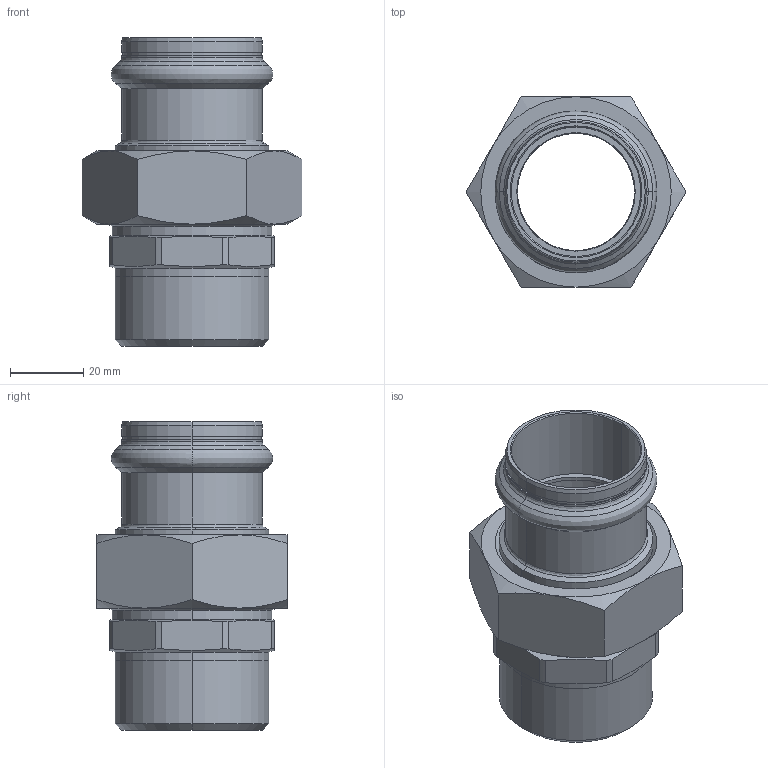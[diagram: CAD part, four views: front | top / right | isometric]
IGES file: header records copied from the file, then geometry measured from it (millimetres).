
Start section: Elysium IGES Interface
Global section: file name: F:\3d modellen sudo\S-Pr VP\SP6331GV\6331GVW35114.igs; native system: CoCreate Modeling 17.00A  17-Jun-2010; preprocessor: CoCreate IGES_3D V2.2; author: Unknown; organization: Unknown; date: 20130128.165339; units: millimetre
Bounding box: 60.04 x 52 x 84.2 mm (x, y, z)
Volume: 55218.5 mm3; surface area: 30757.8 mm2
Topology: 3 solids, 3 shells, 128 faces, 298 edges, 178 vertices
Faces by surface type: bspline 128
